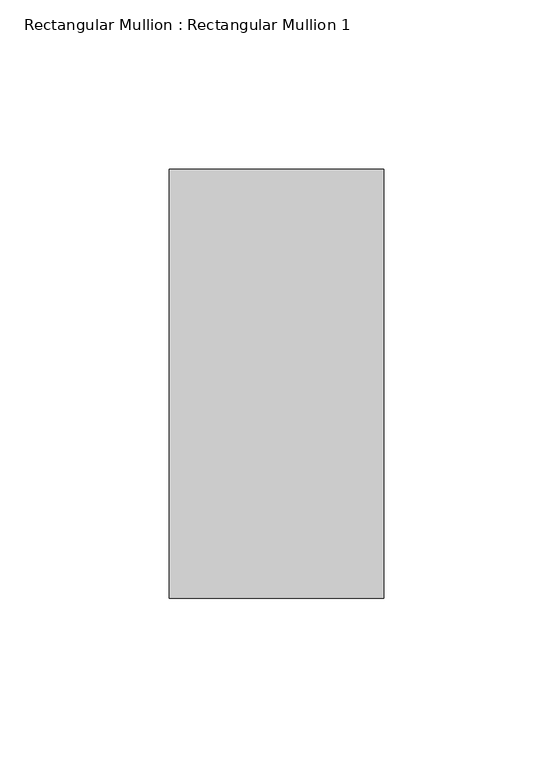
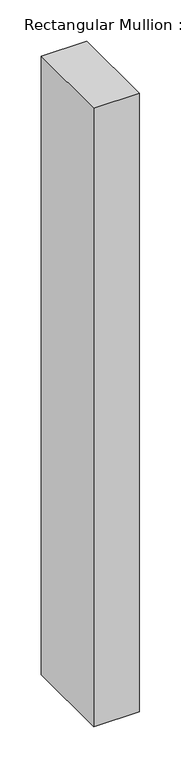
"""IFC4 building model written with IfcOpenShell, lengths in millimetres: member geometry, Rectangular Mullion : Rectangular Mullion 1."""

from ifc_helpers import new_model, si_unit, frame, origin, place, context, project, spatial, polyline, outline, extrude, source, transform, mapped, element, save


def rectangular_mullion_rectangular_mullion_1_c2f1db38(model_context):
    return source(origin(), model_context, "Body", "SweptSolid", [
        extrude(outline(polyline([(31.75, 63.5), (31.75, -63.5), (-31.75, -63.5), (-31.75, 63.5), (31.75, 63.5)])), frame((0.0, 0.0, -913.3416667), z_axis=(0.0, 0.0, 1.0), x_axis=(1.0, 0.0, 0.0)), (0.0, 0.0, 1.0), 913.3416667),
    ])


if __name__ == "__main__":
    model = new_model("IFC4")
    model_context = context("Model", 3, world=origin())
    ifc_project = project(units=[si_unit("LENGTHUNIT", "METRE", prefix="MILLI")], contexts=[model_context])
    site = spatial("IfcSite", under=ifc_project)
    building = spatial("IfcBuilding", under=site)
    placement = place(None, origin())
    rectangular_mullion_rectangular_mullion_1_shape = rectangular_mullion_rectangular_mullion_1_c2f1db38(model_context)
    element("IfcMember", 1, ObjectType="Rectangular Mullion : Rectangular Mullion 1", at=placement, inside=building, context=model_context, shape_type="MappedRepresentation", body=[
        mapped(rectangular_mullion_rectangular_mullion_1_shape, transform((0.0, 0.0, 0.0), x_axis=(1.0, 0.0, 0.0), y_axis=(0.0, 1.0, 0.0), z_axis=(0.0, 0.0, 1.0))),
    ])
    save(model, "model.ifc")
